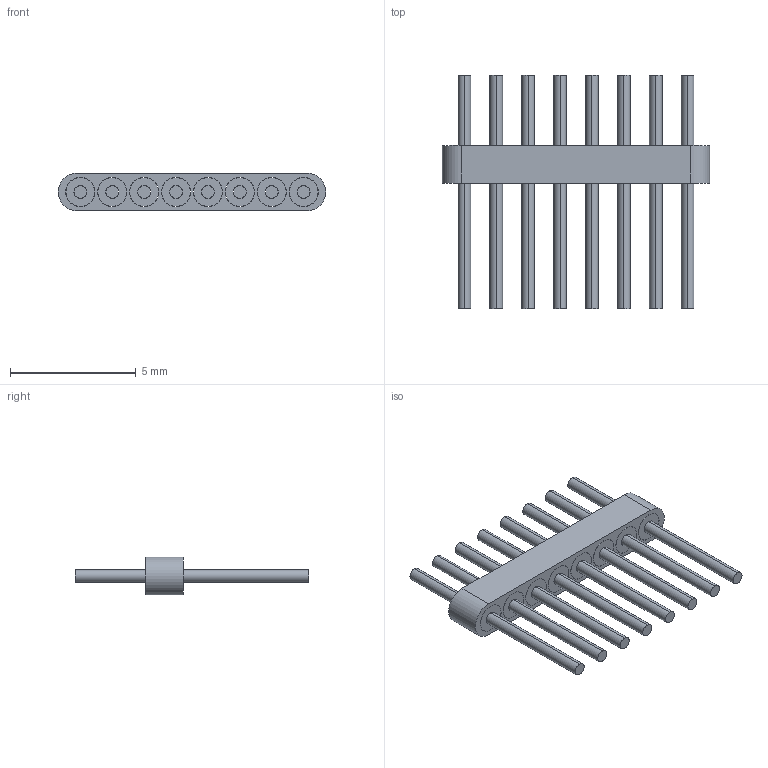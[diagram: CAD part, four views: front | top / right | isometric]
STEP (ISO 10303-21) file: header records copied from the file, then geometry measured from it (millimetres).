
FILE_DESCRIPTION (( 'STEP AP203' ), '1' );
FILE_NAME ('8о.STEP', '2023-11-09T01:45:36', ( 'China' ), ( 'Microsoft' ), 'SwSTEP 2.0', 'SolidWorks 2019', '' );
FILE_SCHEMA (( 'CONFIG_CONTROL_DESIGN' ));
Length unit declared in the file: millimetre
Products named in the file (1): 8о
Bounding box: 10.64 x 9.3 x 1.5 mm (x, y, z)
Volume: 35.2 mm3; surface area: 288.2 mm2
Topology: 17 solids, 17 shells, 102 faces, 204 edges, 136 vertices
Faces by surface type: cylinder 66, plane 36
Entity records: 2829 total; most frequent: DIRECTION 542, CARTESIAN_POINT 443, ORIENTED_EDGE 408, AXIS2_PLACEMENT_3D 235, EDGE_CURVE 204, VERTEX_POINT 136, EDGE_LOOP 134, CIRCLE 132
